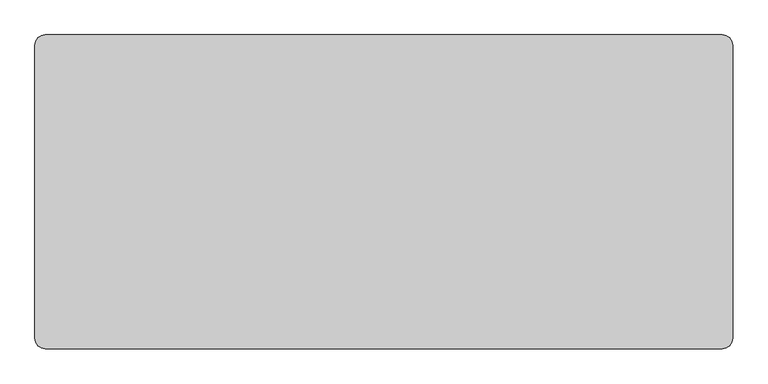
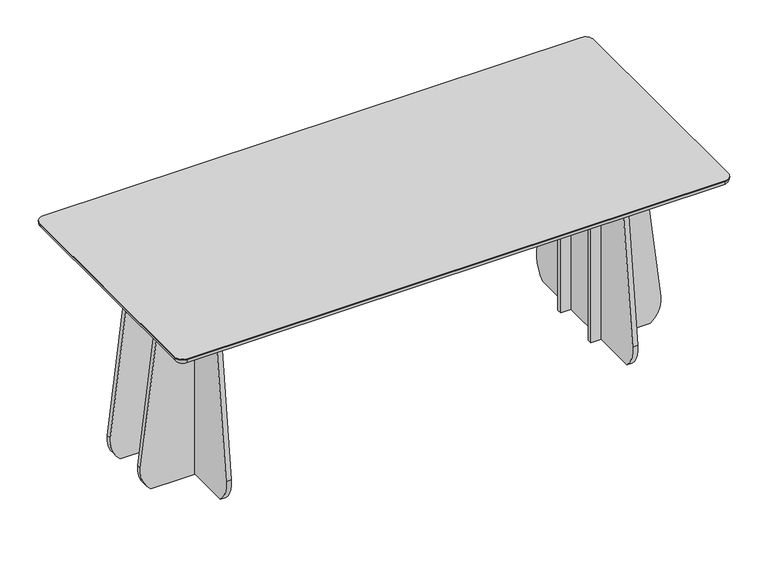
"""IFC4 building model written with IfcOpenShell, lengths in millimetres: furniture geometry, Lundbergs Möbler - Funghi Largo - Table - Rectangular - 200x90 - H73 : Lundbergs Möbler - Funghi Largo - Table - Rectangular - 200x90 - H73."""

from ifc_helpers import new_model, si_unit, point, frame, frame_2d, origin, place, context, project, spatial, polyline, circle_curve, ellipse_curve, trimmed, segment, composite_curve, outline, extrude, source, transform, mapped, element, save
from ifc_brep_helpers import plane_surface, cylinder_surface, revolved_surface, advanced_brep


def furniture_8b29e370(model_context):
    return source(origin(), model_context, "Body", "SolidModel", [
        advanced_brep(
        [(-980.0, 420.0, 706.0), (-1000.0, 420.0, 726.0), (-970.0, 450.0, 726.0), (-970.0, 430.0, 706.0), (-980.0, -420.0, 706.0), (-1000.0, -420.0, 726.0), (-970.0, -430.0, 706.0), (-970.0, -450.0, 726.0), (970.0, -430.0, 706.0), (970.0, -450.0, 726.0), (980.0, -420.0, 706.0), (1000.0, -420.0, 726.0), (980.0, 420.0, 706.0), (1000.0, 420.0, 726.0), (970.0, 430.0, 706.0), (970.0, 450.0, 726.0), (970.0, 450.0, 730.0), (-970.0, 450.0, 730.0), (-1000.0, 420.0, 730.0), (-1000.0, -420.0, 730.0), (-970.0, -450.0, 730.0), (970.0, -450.0, 730.0), (1000.0, -420.0, 730.0), (1000.0, 420.0, 730.0)],
        [
            (0, 1, circle_curve(frame((-980.0, 420.0, 726.0), z_axis=(0.0, 1.0, 0.0), x_axis=(1.0, 0.0, 0.0)), 20.0)),
            (1, 2, circle_curve(frame((-970.0, 420.0, 726.0), z_axis=(0.0, 0.0, -1.0), x_axis=(0.0, 1.0, 0.0)), 30.0)),
            (2, 3, circle_curve(frame((-970.0, 430.0, 726.0), z_axis=(-1.0, 0.0, 0.0), x_axis=(0.0, -1.0, 0.0)), 20.0)),
            (3, 0, circle_curve(frame((-970.0, 420.0, 706.0), z_axis=(0.0, 0.0, 1.0), x_axis=(0.0, 1.0, 0.0)), 10.0)),
            (0, 4),
            (4, 5, circle_curve(frame((-980.0, -420.0, 726.0), z_axis=(0.0, 1.0, 0.0), x_axis=(1.0, 0.0, 0.0)), 20.0)),
            (5, 1),
            (4, 6, circle_curve(frame((-970.0, -420.0, 706.0), z_axis=(0.0, 0.0, 1.0), x_axis=(-1.0, 0.0, 0.0)), 10.0)),
            (6, 7, circle_curve(frame((-970.0, -430.0, 726.0), z_axis=(-1.0, 0.0, 0.0), x_axis=(0.0, 1.0, 0.0)), 20.0)),
            (7, 5, circle_curve(frame((-970.0, -420.0, 726.0), z_axis=(0.0, 0.0, -1.0), x_axis=(-1.0, 0.0, 0.0)), 30.0)),
            (6, 8),
            (8, 9, circle_curve(frame((970.0, -430.0, 726.0), z_axis=(-1.0, 0.0, 0.0), x_axis=(0.0, 1.0, 0.0)), 20.0)),
            (9, 7),
            (8, 10, circle_curve(frame((970.0, -420.0, 706.0), z_axis=(0.0, 0.0, 1.0), x_axis=(0.0, -1.0, 0.0)), 10.0)),
            (10, 11, circle_curve(frame((980.0, -420.0, 726.0), z_axis=(0.0, -1.0, 0.0), x_axis=(-1.0, 0.0, 0.0)), 20.0)),
            (11, 9, circle_curve(frame((970.0, -420.0, 726.0), z_axis=(0.0, 0.0, -1.0), x_axis=(0.0, -1.0, 0.0)), 30.0)),
            (10, 12),
            (12, 13, circle_curve(frame((980.0, 420.0, 726.0), z_axis=(0.0, -1.0, 0.0), x_axis=(-1.0, 0.0, 0.0)), 20.0)),
            (13, 11),
            (12, 14, circle_curve(frame((970.0, 420.0, 706.0), z_axis=(0.0, 0.0, 1.0), x_axis=(1.0, 0.0, 0.0)), 10.0)),
            (14, 15, circle_curve(frame((970.0, 430.0, 726.0), z_axis=(1.0, 0.0, 0.0), x_axis=(0.0, -1.0, 0.0)), 20.0)),
            (15, 13, circle_curve(frame((970.0, 420.0, 726.0), z_axis=(0.0, 0.0, -1.0), x_axis=(1.0, 0.0, 0.0)), 30.0)),
            (2, 15),
            (14, 3),
            (16, 17),
            (17, 18, circle_curve(frame((-970.0, 420.0, 730.0), z_axis=(0.0, 0.0, 1.0), x_axis=(0.0, 1.0, 0.0)), 30.0)),
            (18, 19),
            (19, 20, circle_curve(frame((-970.0, -420.0, 730.0), z_axis=(0.0, 0.0, 1.0), x_axis=(0.0, 1.0, 0.0)), 30.0)),
            (20, 21),
            (21, 22, circle_curve(frame((970.0, -420.0, 730.0), z_axis=(0.0, 0.0, 1.0), x_axis=(0.0, 1.0, 0.0)), 30.0)),
            (22, 23),
            (23, 16, circle_curve(frame((970.0, 420.0, 730.0), z_axis=(0.0, 0.0, 1.0), x_axis=(0.0, 1.0, 0.0)), 30.0)),
            (16, 15),
            (2, 17),
            (1, 18),
            (5, 19),
            (7, 20),
            (9, 21),
            (11, 22),
            (13, 23),
        ],
        [
            revolved_surface(trimmed(ellipse_curve(frame((-970.0, 430.0, 726.0), z_axis=(1.0, 0.0, 0.0), x_axis=(0.0, -1.0, 0.0)), 20.0, 20.0), [point((-970.0, 430.0, 706.0))], [point((-970.0, 450.0, 726.0))], True, "CARTESIAN"), (-970.0, 420.0, 0.0), (0.0, 0.0, 1.0)),
            cylinder_surface(frame((-980.0, 420.0, 726.0), z_axis=(0.0, -1.0, 0.0), x_axis=(1.0, 0.0, 0.0)), 20.0),
            revolved_surface(trimmed(ellipse_curve(frame((-980.0, -420.0, 726.0), z_axis=(0.0, 1.0, 0.0), x_axis=(1.0, 0.0, 0.0)), 20.0, 20.0), [point((-980.0, -420.0, 706.0))], [point((-1000.0, -420.0, 726.0))], True, "CARTESIAN"), (-970.0, -420.0, 0.0), (0.0, 0.0, 1.0)),
            cylinder_surface(frame((-970.0, -430.0, 726.0), z_axis=(1.0, 0.0, 0.0), x_axis=(0.0, 1.0, 0.0)), 20.0),
            revolved_surface(trimmed(ellipse_curve(frame((970.0, -430.0, 726.0), z_axis=(-1.0, 0.0, 0.0), x_axis=(0.0, 1.0, 0.0)), 20.0, 20.0), [point((970.0, -430.0, 706.0))], [point((970.0, -450.0, 726.0))], True, "CARTESIAN"), (970.0, -420.0, 0.0), (0.0, 0.0, 1.0)),
            cylinder_surface(frame((980.0, -420.0, 726.0), z_axis=(0.0, 1.0, 0.0), x_axis=(-1.0, 0.0, 0.0)), 20.0),
            revolved_surface(trimmed(ellipse_curve(frame((980.0, 420.0, 726.0), z_axis=(0.0, -1.0, 0.0), x_axis=(-1.0, 0.0, 0.0)), 20.0, 20.0), [point((980.0, 420.0, 706.0))], [point((1000.0, 420.0, 726.0))], True, "CARTESIAN"), (970.0, 420.0, 0.0), (0.0, 0.0, 1.0)),
            cylinder_surface(frame((970.0, 430.0, 726.0), z_axis=(-1.0, 0.0, 0.0), x_axis=(0.0, -1.0, 0.0)), 20.0),
            plane_surface(frame((-970.0, 450.0, 730.0), z_axis=(0.0, 0.0, 1.0), x_axis=(-1.0, 0.0, 0.0))),
            plane_surface(frame((-970.0, 450.0, 706.0), z_axis=(0.0, 0.0, -1.0), x_axis=(1.0, 0.0, 0.0))),
            plane_surface(frame((970.0, 450.0, 730.0), z_axis=(0.0, 1.0, 0.0), x_axis=(0.0, 0.0, -1.0))),
            cylinder_surface(frame((-970.0, 420.0, 706.0), z_axis=(0.0, 0.0, 1.0), x_axis=(0.0, 1.0, 0.0)), 30.0),
            plane_surface(frame((-1000.0, 420.0, 730.0), z_axis=(-1.0, 0.0, 0.0), x_axis=(0.0, 0.0, -1.0))),
            cylinder_surface(frame((-970.0, -420.0, 706.0), z_axis=(0.0, 0.0, 1.0), x_axis=(0.0, 1.0, 0.0)), 30.0),
            plane_surface(frame((-970.0, -450.0, 730.0), z_axis=(0.0, -1.0, 0.0), x_axis=(0.0, 0.0, -1.0))),
            cylinder_surface(frame((970.0, -420.0, 706.0), z_axis=(0.0, 0.0, 1.0), x_axis=(0.0, 1.0, 0.0)), 30.0),
            plane_surface(frame((1000.0, -420.0, 730.0), z_axis=(1.0, 0.0, 0.0), x_axis=(0.0, 0.0, -1.0))),
            cylinder_surface(frame((970.0, 420.0, 706.0), z_axis=(0.0, 0.0, 1.0), x_axis=(0.0, 1.0, 0.0)), 30.0),
        ],
        [
            (0, [[1, 2, 3, 4]]),
            (1, [[-1, 5, 6, 7]]),
            (2, [[-6, 8, 9, 10]]),
            (3, [[-9, 11, 12, 13]]),
            (4, [[-12, 14, 15, 16]]),
            (5, [[-15, 17, 18, 19]]),
            (6, [[-18, 20, 21, 22]]),
            (7, [[-3, 23, -21, 24]]),
            (8, [[25, 26, 27, 28, 29, 30, 31, 32]]),
            (9, [[-4, -24, -20, -17, -14, -11, -8, -5]]),
            (10, [[-25, 33, -23, 34]]),
            (11, [[-26, -34, -2, 35]]),
            (12, [[-27, -35, -7, 36]]),
            (13, [[-28, -36, -10, 37]]),
            (14, [[-29, -37, -13, 38]]),
            (15, [[-30, -38, -16, 39]]),
            (16, [[-31, -39, -19, 40]]),
            (17, [[-32, -40, -22, -33]]),
        ],
    ),
        extrude(outline(composite_curve([segment(trimmed(circle_curve(frame_2d((-781.25, 178.0)), 2.0), [point((-781.25, 180.0))], [point((-779.25, 178.0))], False, "CARTESIAN"), True, "CONTINUOUS"), segment(polyline([(-779.25, 178.0), (-779.25, -178.0)]), True, "CONTINUOUS"), segment(trimmed(circle_curve(frame_2d((-781.25, -178.0)), 2.0), [point((-779.25, -178.0))], [point((-781.25, -180.0))], False, "CARTESIAN"), True, "CONTINUOUS"), segment(polyline([(-781.25, -180.0), (-817.25, -180.0)]), True, "CONTINUOUS"), segment(trimmed(circle_curve(frame_2d((-817.25, -178.0)), 2.0), [point((-817.25, -180.0))], [point((-819.25, -178.0))], False, "CARTESIAN"), True, "CONTINUOUS"), segment(polyline([(-819.25, -178.0), (-819.25, 178.0)]), True, "CONTINUOUS"), segment(trimmed(circle_curve(frame_2d((-817.25, 178.0)), 2.0), [point((-819.25, 178.0))], [point((-817.25, 180.0))], False, "CARTESIAN"), True, "CONTINUOUS"), segment(polyline([(-817.25, 180.0), (-781.25, 180.0)]), True, "CONTINUOUS")], self_intersect=False)), frame((0.0, 0.0, 686.0), z_axis=(0.0, 0.0, 1.0), x_axis=(1.0, 0.0, 0.0)), (0.0, 0.0, 1.0), 20.0),
        extrude(outline(composite_curve([segment(trimmed(circle_curve(frame_2d((-661.25, 176.5)), 3.5), [point((-661.25, 180.0))], [point((-657.75, 176.5))], False, "CARTESIAN"), True, "CONTINUOUS"), segment(polyline([(-657.75, 176.5), (-657.75, 143.5)]), True, "CONTINUOUS"), segment(trimmed(circle_curve(frame_2d((-661.25, 143.5)), 3.5), [point((-657.75, 143.5))], [point((-661.25, 140.0))], False, "CARTESIAN"), True, "CONTINUOUS"), segment(polyline([(-661.25, 140.0), (-751.25, 140.0)]), True, "CONTINUOUS"), segment(trimmed(circle_curve(frame_2d((-751.25, 143.5)), 3.5), [point((-751.25, 140.0))], [point((-754.75, 143.5))], False, "CARTESIAN"), True, "CONTINUOUS"), segment(polyline([(-754.75, 143.5), (-754.75, 176.5)]), True, "CONTINUOUS"), segment(trimmed(circle_curve(frame_2d((-751.25, 176.5)), 3.5), [point((-754.75, 176.5))], [point((-751.25, 180.0))], False, "CARTESIAN"), True, "CONTINUOUS"), segment(polyline([(-751.25, 180.0), (-661.25, 180.0)]), True, "CONTINUOUS")], self_intersect=False)), frame((0.0, 0.0, 686.0), z_axis=(0.0, 0.0, 1.0), x_axis=(1.0, 0.0, 0.0)), (0.0, 0.0, 1.0), 20.0),
        extrude(outline(composite_curve([segment(trimmed(circle_curve(frame_2d((-661.25, -143.5)), 3.5), [point((-661.25, -140.0))], [point((-657.75, -143.5))], False, "CARTESIAN"), True, "CONTINUOUS"), segment(polyline([(-657.75, -143.5), (-657.75, -176.5)]), True, "CONTINUOUS"), segment(trimmed(circle_curve(frame_2d((-661.25, -176.5)), 3.5), [point((-657.75, -176.5))], [point((-661.25, -180.0))], False, "CARTESIAN"), True, "CONTINUOUS"), segment(polyline([(-661.25, -180.0), (-751.25, -180.0)]), True, "CONTINUOUS"), segment(trimmed(circle_curve(frame_2d((-751.25, -176.5)), 3.5), [point((-751.25, -180.0))], [point((-754.75, -176.5))], False, "CARTESIAN"), True, "CONTINUOUS"), segment(polyline([(-754.75, -176.5), (-754.75, -143.5)]), True, "CONTINUOUS"), segment(trimmed(circle_curve(frame_2d((-751.25, -143.5)), 3.5), [point((-754.75, -143.5))], [point((-751.25, -140.0))], False, "CARTESIAN"), True, "CONTINUOUS"), segment(polyline([(-751.25, -140.0), (-661.25, -140.0)]), True, "CONTINUOUS")], self_intersect=False)), frame((0.0, 0.0, 686.0), z_axis=(0.0, 0.0, 1.0), x_axis=(1.0, 0.0, 0.0)), (0.0, 0.0, 1.0), 20.0),
        extrude(outline(composite_curve([segment(trimmed(circle_curve(frame_2d((200.0, 78.0350603)), 100.0), [point((299.2807726, 90.0070355))], [point((262.5342255, 0.0))], False, "CARTESIAN"), True, "CONTINUOUS"), segment(polyline([(262.5342255, 0.0), (-262.5342255, 0.0)]), True, "CONTINUOUS"), segment(trimmed(circle_curve(frame_2d((-200.0, 78.0350603)), 100.0), [point((-262.5342255, 0.0))], [point((-299.2807726, 90.0070355))], False, "CARTESIAN"), True, "CONTINUOUS"), segment(polyline([(-299.2807726, 90.0070355), (-224.9955121, 706.0372169), (224.9955121, 706.0372169), (299.2807726, 90.0070355)]), True, "CONTINUOUS")], self_intersect=False)), frame((-742.75, 0.0, 0.0), z_axis=(1.0, 0.0, 0.0), x_axis=(0.0, 1.0, 0.0)), (0.0, 0.0, 1.0), 18.5),
        extrude(outline(composite_curve([segment(trimmed(circle_curve(frame_2d((78.0350603, -839.25)), 100.0), [point((90.0070355, -938.5307726))], [point((0.0, -901.7842255))], False, "CARTESIAN"), True, "CONTINUOUS"), segment(polyline([(0.0, -901.7842255), (0.0, -687.25), (706.0372169, -687.25), (706.0372169, -864.2455121), (90.0070355, -938.5307726)]), True, "CONTINUOUS")], self_intersect=False)), frame((0.0, 85.5, 0.0), z_axis=(0.0, 1.0, 0.0), x_axis=(0.0, 0.0, 1.0)), (0.0, 0.0, 1.0), 18.0),
        extrude(outline(composite_curve([segment(trimmed(circle_curve(frame_2d((78.0350603, -839.25)), 100.0), [point((90.0070355, -938.5307726))], [point((0.0, -901.7842255))], False, "CARTESIAN"), True, "CONTINUOUS"), segment(polyline([(0.0, -901.7842255), (0.0, -687.25), (706.0372169, -687.25), (706.0372169, -864.2455121), (90.0070355, -938.5307726)]), True, "CONTINUOUS")], self_intersect=False)), frame((0.0, -103.5, 0.0), z_axis=(0.0, 1.0, 0.0), x_axis=(0.0, 0.0, 1.0)), (0.0, 0.0, 1.0), 18.0),
        extrude(outline(composite_curve([segment(polyline([(781.25, 180.0), (817.25, 180.0)]), True, "CONTINUOUS"), segment(trimmed(circle_curve(frame_2d((817.25, 178.0)), 2.0), [point((817.25, 180.0))], [point((819.25, 178.0))], False, "CARTESIAN"), True, "CONTINUOUS"), segment(polyline([(819.25, 178.0), (819.25, -178.0)]), True, "CONTINUOUS"), segment(trimmed(circle_curve(frame_2d((817.25, -178.0)), 2.0), [point((819.25, -178.0))], [point((817.25, -180.0))], False, "CARTESIAN"), True, "CONTINUOUS"), segment(polyline([(817.25, -180.0), (781.25, -180.0)]), True, "CONTINUOUS"), segment(trimmed(circle_curve(frame_2d((781.25, -178.0)), 2.0), [point((781.25, -180.0))], [point((779.25, -178.0))], False, "CARTESIAN"), True, "CONTINUOUS"), segment(polyline([(779.25, -178.0), (779.25, 178.0)]), True, "CONTINUOUS"), segment(trimmed(circle_curve(frame_2d((781.25, 178.0)), 2.0), [point((779.25, 178.0))], [point((781.25, 180.0))], False, "CARTESIAN"), True, "CONTINUOUS")], self_intersect=False)), frame((0.0, 0.0, 686.0), z_axis=(0.0, 0.0, 1.0), x_axis=(1.0, 0.0, 0.0)), (0.0, 0.0, 1.0), 20.0),
        extrude(outline(composite_curve([segment(polyline([(661.25, 180.0), (751.25, 180.0)]), True, "CONTINUOUS"), segment(trimmed(circle_curve(frame_2d((751.25, 176.5)), 3.5), [point((751.25, 180.0))], [point((754.75, 176.5))], False, "CARTESIAN"), True, "CONTINUOUS"), segment(polyline([(754.75, 176.5), (754.75, 143.5)]), True, "CONTINUOUS"), segment(trimmed(circle_curve(frame_2d((751.25, 143.5)), 3.5), [point((754.75, 143.5))], [point((751.25, 140.0))], False, "CARTESIAN"), True, "CONTINUOUS"), segment(polyline([(751.25, 140.0), (661.25, 140.0)]), True, "CONTINUOUS"), segment(trimmed(circle_curve(frame_2d((661.25, 143.5)), 3.5), [point((661.25, 140.0))], [point((657.75, 143.5))], False, "CARTESIAN"), True, "CONTINUOUS"), segment(polyline([(657.75, 143.5), (657.75, 176.5)]), True, "CONTINUOUS"), segment(trimmed(circle_curve(frame_2d((661.25, 176.5)), 3.5), [point((657.75, 176.5))], [point((661.25, 180.0))], False, "CARTESIAN"), True, "CONTINUOUS")], self_intersect=False)), frame((0.0, 0.0, 686.0), z_axis=(0.0, 0.0, 1.0), x_axis=(1.0, 0.0, 0.0)), (0.0, 0.0, 1.0), 20.0),
        extrude(outline(composite_curve([segment(polyline([(661.25, -140.0), (751.25, -140.0)]), True, "CONTINUOUS"), segment(trimmed(circle_curve(frame_2d((751.25, -143.5)), 3.5), [point((751.25, -140.0))], [point((754.75, -143.5))], False, "CARTESIAN"), True, "CONTINUOUS"), segment(polyline([(754.75, -143.5), (754.75, -176.5)]), True, "CONTINUOUS"), segment(trimmed(circle_curve(frame_2d((751.25, -176.5)), 3.5), [point((754.75, -176.5))], [point((751.25, -180.0))], False, "CARTESIAN"), True, "CONTINUOUS"), segment(polyline([(751.25, -180.0), (661.25, -180.0)]), True, "CONTINUOUS"), segment(trimmed(circle_curve(frame_2d((661.25, -176.5)), 3.5), [point((661.25, -180.0))], [point((657.75, -176.5))], False, "CARTESIAN"), True, "CONTINUOUS"), segment(polyline([(657.75, -176.5), (657.75, -143.5)]), True, "CONTINUOUS"), segment(trimmed(circle_curve(frame_2d((661.25, -143.5)), 3.5), [point((657.75, -143.5))], [point((661.25, -140.0))], False, "CARTESIAN"), True, "CONTINUOUS")], self_intersect=False)), frame((0.0, 0.0, 686.0), z_axis=(0.0, 0.0, 1.0), x_axis=(1.0, 0.0, 0.0)), (0.0, 0.0, 1.0), 20.0),
        extrude(outline(composite_curve([segment(trimmed(circle_curve(frame_2d((200.0, 78.0350603)), 100.0), [point((299.2807726, 90.0070355))], [point((262.5342255, 0.0))], False, "CARTESIAN"), True, "CONTINUOUS"), segment(polyline([(262.5342255, 0.0), (-262.5342255, 0.0)]), True, "CONTINUOUS"), segment(trimmed(circle_curve(frame_2d((-200.0, 78.0350603)), 100.0), [point((-262.5342255, 0.0))], [point((-299.2807726, 90.0070355))], False, "CARTESIAN"), True, "CONTINUOUS"), segment(polyline([(-299.2807726, 90.0070355), (-224.9955121, 706.0372169), (224.9955121, 706.0372169), (299.2807726, 90.0070355)]), True, "CONTINUOUS")], self_intersect=False)), frame((724.25, 0.0, 0.0), z_axis=(1.0, 0.0, 0.0), x_axis=(0.0, 1.0, 0.0)), (0.0, 0.0, 1.0), 18.5),
        extrude(outline(composite_curve([segment(polyline([(90.0070355, 938.5307726), (706.0372169, 864.2455121), (706.0372169, 687.25), (0.0, 687.25), (0.0, 901.7842255)]), True, "CONTINUOUS"), segment(trimmed(circle_curve(frame_2d((78.0350603, 839.25)), 100.0), [point((0.0, 901.7842255))], [point((90.0070355, 938.5307726))], False, "CARTESIAN"), True, "CONTINUOUS")], self_intersect=False)), frame((0.0, 85.5, 0.0), z_axis=(0.0, 1.0, 0.0), x_axis=(0.0, 0.0, 1.0)), (0.0, 0.0, 1.0), 18.0),
        extrude(outline(composite_curve([segment(polyline([(90.0070355, 938.5307726), (706.0372169, 864.2455121), (706.0372169, 687.25), (0.0, 687.25), (0.0, 901.7842255)]), True, "CONTINUOUS"), segment(trimmed(circle_curve(frame_2d((78.0350603, 839.25)), 100.0), [point((0.0, 901.7842255))], [point((90.0070355, 938.5307726))], False, "CARTESIAN"), True, "CONTINUOUS")], self_intersect=False)), frame((0.0, -103.5, 0.0), z_axis=(0.0, 1.0, 0.0), x_axis=(0.0, 0.0, 1.0)), (0.0, 0.0, 1.0), 18.0),
    ])


if __name__ == "__main__":
    model = new_model("IFC4")
    model_context = context("Model", 3, world=origin())
    ifc_project = project(units=[si_unit("LENGTHUNIT", "METRE", prefix="MILLI")], contexts=[model_context])
    site = spatial("IfcSite", under=ifc_project)
    building = spatial("IfcBuilding", under=site)
    placement = place(None, origin())
    furniture_shape = furniture_8b29e370(model_context)
    element("IfcFurniture", 1, ObjectType="Lundbergs Möbler - Funghi Largo - Table - Rectangular - 200x90 - H73 : Lundbergs Möbler - Funghi Largo - Table - Rectangular - 200x90 - H73", at=placement, inside=building, context=model_context, shape_type="MappedRepresentation", body=[
        mapped(furniture_shape, transform((0.0, 0.0, 0.0), x_axis=(1.0, 0.0, 0.0), y_axis=(0.0, 1.0, 0.0), z_axis=(0.0, 0.0, 1.0))),
    ])
    save(model, "model.ifc")
